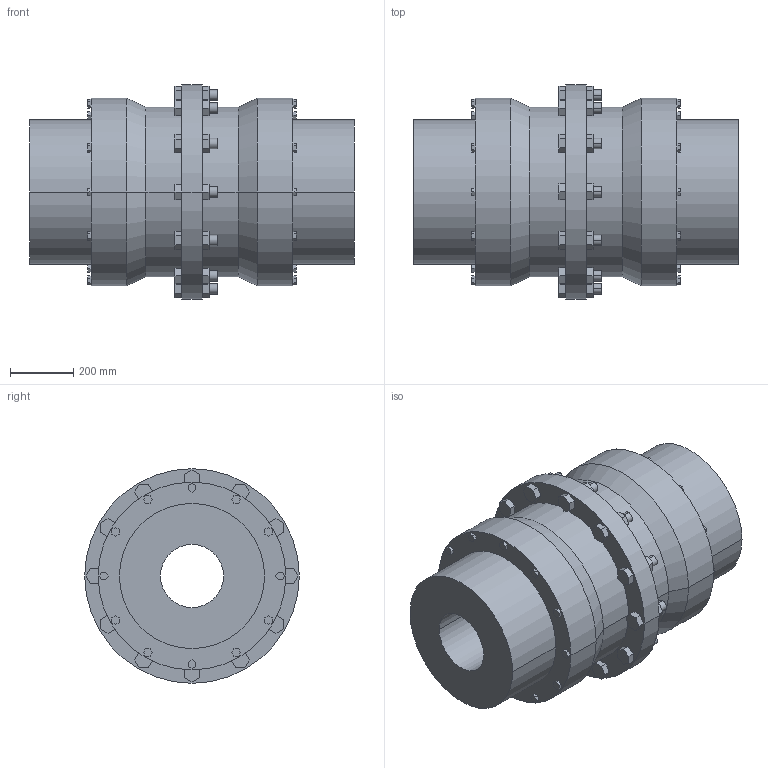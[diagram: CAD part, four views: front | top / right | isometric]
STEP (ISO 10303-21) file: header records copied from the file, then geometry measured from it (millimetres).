
FILE_DESCRIPTION((''),'2;1');
FILE_NAME('A19716400-0_ASM','2019-05-23T',('AB_Roschiwal'),('RENK AG'),'PRO/ENGINEER BY PARAMETRIC TECHNOLOGY CORPORATION, 2015440','PRO/ENGINEER BY PARAMETRIC TECHNOLOGY CORPORATION, 2015440','');
FILE_SCHEMA(('CONFIG_CONTROL_DESIGN'));
Length unit declared in the file: millimetre
Products named in the file (3): SBK280_GEHAEUSE; SBK280_NABE; A19716400-0_ASM
Assembly tree (3 placements, depth 2):
  A19716400-0_ASM
    SBK280_GEHAEUSE
    SBK280_NABE  x2
Bounding box: 1028 x 680 x 680 mm (x, y, z)
Volume: 144434462.1 mm3; surface area: 4817396.3 mm2
Topology: 3 solids, 3 shells, 422 faces, 1036 edges, 688 vertices
Faces by surface type: plane 362, cylinder 56, cone 4
Entity records: 12052 total; most frequent: CARTESIAN_POINT 2100, ORIENTED_EDGE 2024, DIRECTION 1940, EDGE_CURVE 1012, VECTOR 916, LINE 916, VERTEX_POINT 672, AXIS2_PLACEMENT_3D 512
